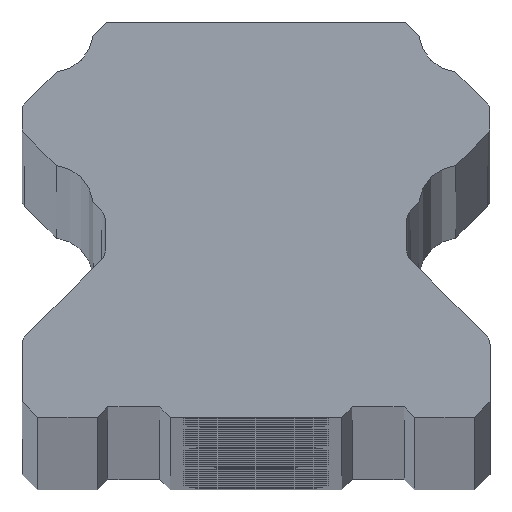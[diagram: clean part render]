
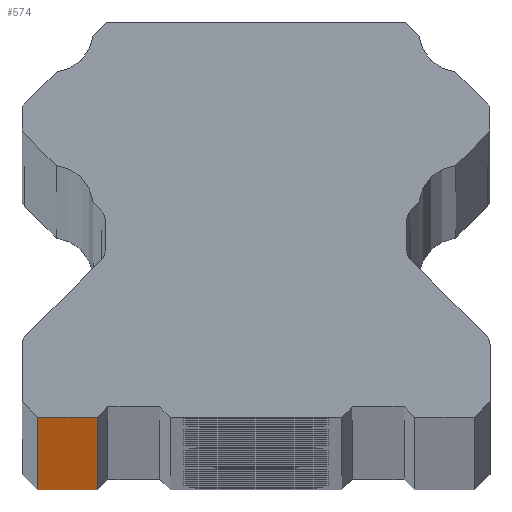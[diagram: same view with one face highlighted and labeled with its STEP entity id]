
A CAD part, top view. The second image highlights one B-rep face of the part: STEP entity #574.
In plain terms, the highlighted planar face has unit normal (0, -1, 0).
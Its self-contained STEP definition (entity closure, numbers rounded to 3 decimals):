
#362 = DIRECTION ( 'NONE',  ( 1., 0., 0. ) ) ;
#503 = CARTESIAN_POINT ( 'NONE',  ( -20.537, -19.345, 2000. ) ) ;
#574 = ADVANCED_FACE ( 'NONE', ( #6827 ), #3898, .F. ) ;
#807 = ORIENTED_EDGE ( 'NONE', *, *, #5728, .T. ) ;
#1020 = VERTEX_POINT ( 'NONE', #1548 ) ;
#1029 = EDGE_CURVE ( 'NONE', #6619, #7151, #3259, .T. ) ;
#1053 = DIRECTION ( 'NONE',  ( 0., 0., 1. ) ) ;
#1548 = CARTESIAN_POINT ( 'NONE',  ( -14.787, -19.345, -2000. ) ) ;
#2037 = LINE ( 'NONE', #4409, #2989 ) ;
#2130 = ORIENTED_EDGE ( 'NONE', *, *, #2796, .F. ) ;
#2207 = CARTESIAN_POINT ( 'NONE',  ( -20.537, -19.345, 2000. ) ) ;
#2223 = VECTOR ( 'NONE', #6922, 1000. ) ;
#2416 = VECTOR ( 'NONE', #362, 1000. ) ;
#2550 = CARTESIAN_POINT ( 'NONE',  ( -20.537, -19.345, 2000. ) ) ;
#2796 = EDGE_CURVE ( 'NONE', #6619, #6006, #6634, .T. ) ;
#2989 = VECTOR ( 'NONE', #3845, 1000. ) ;
#3259 = LINE ( 'NONE', #2550, #5993 ) ;
#3333 = EDGE_LOOP ( 'NONE', ( #807, #5349, #2130, #7084 ) ) ;
#3768 = CARTESIAN_POINT ( 'NONE',  ( -20.537, -19.345, -2000. ) ) ;
#3845 = DIRECTION ( 'NONE',  ( 1., 0., 0. ) ) ;
#3898 = PLANE ( 'NONE',  #7041 ) ;
#4409 = CARTESIAN_POINT ( 'NONE',  ( -20.537, -19.345, -2000. ) ) ;
#4601 = CARTESIAN_POINT ( 'NONE',  ( -14.787, -19.345, 2000. ) ) ;
#4667 = LINE ( 'NONE', #4601, #2223 ) ;
#4770 = CARTESIAN_POINT ( 'NONE',  ( -20.537, -19.345, 2000. ) ) ;
#5085 = DIRECTION ( 'NONE',  ( 0., 1., 0. ) ) ;
#5349 = ORIENTED_EDGE ( 'NONE', *, *, #7049, .F. ) ;
#5728 = EDGE_CURVE ( 'NONE', #7151, #1020, #2037, .T. ) ;
#5993 = VECTOR ( 'NONE', #7166, 1000. ) ;
#6006 = VERTEX_POINT ( 'NONE', #6733 ) ;
#6619 = VERTEX_POINT ( 'NONE', #4770 ) ;
#6634 = LINE ( 'NONE', #503, #2416 ) ;
#6733 = CARTESIAN_POINT ( 'NONE',  ( -14.787, -19.345, 2000. ) ) ;
#6827 = FACE_OUTER_BOUND ( 'NONE', #3333, .T. ) ;
#6922 = DIRECTION ( 'NONE',  ( 0., 0., -1. ) ) ;
#7041 = AXIS2_PLACEMENT_3D ( 'NONE', #2207, #5085, #1053 ) ;
#7049 = EDGE_CURVE ( 'NONE', #6006, #1020, #4667, .T. ) ;
#7084 = ORIENTED_EDGE ( 'NONE', *, *, #1029, .T. ) ;
#7151 = VERTEX_POINT ( 'NONE', #3768 ) ;
#7166 = DIRECTION ( 'NONE',  ( 0., 0., -1. ) ) ;
